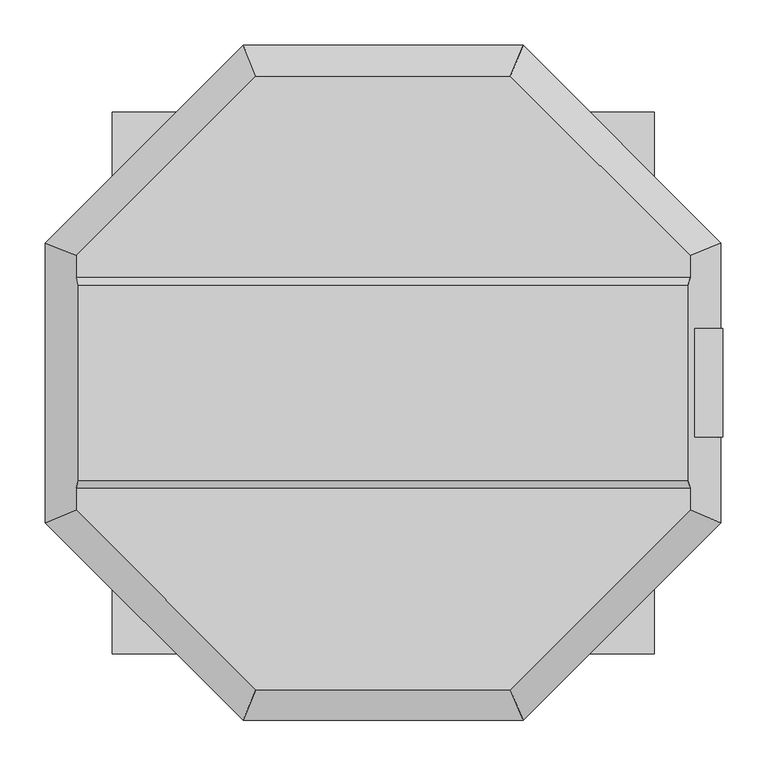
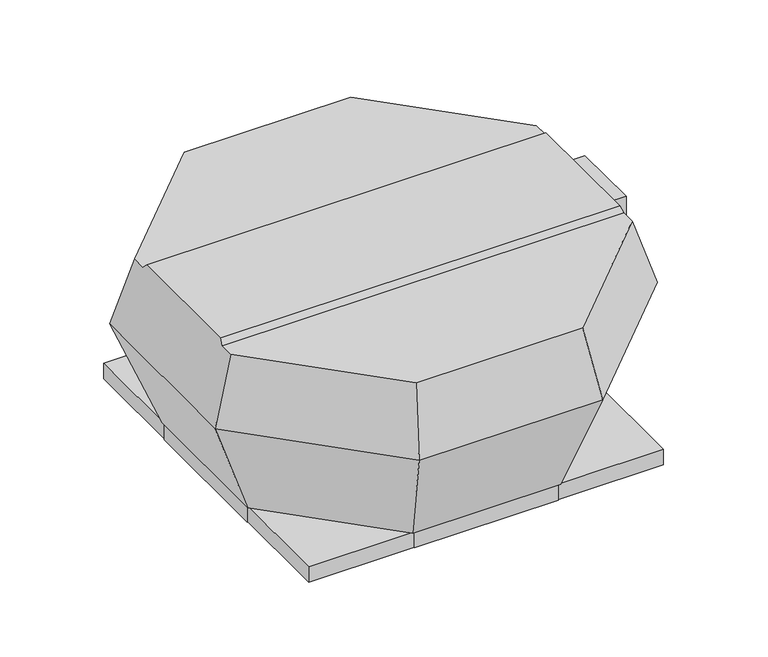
"""IFC4 building model written with IfcOpenShell, lengths in millimetres: unitary equipment geometry, VE-Wentylator-ParaForma-Harmann-VIVER_PS-Wywiewny : 4-355/2700S."""

from ifc_helpers import new_model, si_unit, point, frame, frame_2d, origin, place, context, project, spatial, polyline, circle_curve, ellipse_curve, trimmed, segment, composite_curve, outline, extrude, faceted_brep, source, transform, mapped, element, save
from ifc_brep_helpers import plane_surface, revolved_surface, advanced_brep


def unitary_equipment_25c7162d(model_context):
    return source(origin(), model_context, "Body", "SolidModel", [
        advanced_brep(
        [(336.2765997, -107.5, 306.5), (336.2765997, 107.5, 306.5), (-336.2765997, 107.5, 306.5), (-336.2765997, -107.5, 306.5), (338.8348735, 116.05, 298.0), (-338.8348735, 116.05, 298.0), (338.8348735, -116.05, 298.0), (-338.8348735, -116.05, 298.0), (140.35, -338.8348735, 298.0), (338.8348735, -140.35, 298.0), (-338.8348735, -140.35, 298.0), (-140.35, -338.8348735, 298.0), (338.8348735, 140.35, 298.0), (140.35, 338.8348735, 298.0), (-140.35, 338.8348735, 298.0), (-338.8348735, 140.35, 298.0), (154.4, -372.754574, 185.3), (372.754574, -154.4, 185.3), (372.754574, 154.4, 185.3), (370.0030463, -60.0, 194.4420965), (343.951421, -60.0, 281.0), (343.951421, 60.0, 281.0), (370.0030463, 60.0, 194.4420965), (366.2535489, 0.0, 206.9), (347.593199, 0.0, 268.9), (154.4, 372.754574, 185.3), (-154.4, 372.754574, 185.3), (-372.754574, 154.4, 185.3), (-372.754574, -154.4, 185.3), (-154.4, -372.754574, 185.3), (374.7, -60.0, 206.7), (374.7, -60.0, 281.0), (374.7, 60.0, 281.0), (374.7, 60.0, 206.7), (374.7, 0.0, 268.9), (374.7, 0.0, 206.9), (124.8, -301.2938526, 1.5), (-124.8, -301.2938526, 1.5), (-301.2938526, -124.8, 1.5), (-301.2938526, 124.8, 1.5), (-124.8, 301.2938526, 1.5), (124.8, 301.2938526, 1.5), (301.2938526, 124.8, 1.5), (301.2938526, -124.8, 1.5)],
        [
            (0, 1),
            (1, 2),
            (2, 3),
            (3, 0),
            (1, 4),
            (4, 5),
            (5, 2),
            (6, 0),
            (3, 7),
            (7, 6),
            (8, 9),
            (9, 6),
            (7, 10),
            (10, 11),
            (11, 8),
            (12, 13),
            (13, 14),
            (14, 15),
            (15, 5),
            (4, 12),
            (8, 16),
            (16, 17),
            (17, 9),
            (17, 18),
            (18, 12),
            (19, 20),
            (20, 21),
            (21, 22),
            (22, 19),
            (23, 24, ellipse_curve(frame((356.923374, 0.0, 237.9), z_axis=(0.9575693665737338, 0.0, 0.28820289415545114), x_axis=(-0.2882028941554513, 0.0, 0.9575693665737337)), 32.3736338, 31.0)),
            (24, 23, ellipse_curve(frame((356.923374, 0.0, 237.9), z_axis=(0.9575693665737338, 0.0, 0.28820289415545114), x_axis=(-0.2882028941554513, 0.0, 0.9575693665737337)), 32.3736338, 31.0)),
            (18, 25),
            (25, 13),
            (25, 26),
            (26, 14),
            (26, 27),
            (27, 15),
            (27, 28),
            (28, 10),
            (28, 29),
            (29, 11),
            (29, 16),
            (30, 31),
            (31, 20),
            (19, 30),
            (32, 33),
            (33, 22),
            (21, 32),
            (30, 33),
            (32, 31),
            (34, 35, circle_curve(frame((374.7, 0.0, 237.9), z_axis=(-1.0, 0.0, 0.0), x_axis=(0.0, 0.0, -1.0)), 31.0)),
            (35, 34, circle_curve(frame((374.7, 0.0, 237.9), z_axis=(-1.0, 0.0, 0.0), x_axis=(0.0, 0.0, -1.0)), 31.0)),
            (36, 37),
            (37, 38),
            (38, 39),
            (39, 40),
            (40, 41),
            (41, 42),
            (42, 43),
            (43, 36),
            (43, 17),
            (16, 36),
            (42, 18),
            (41, 25),
            (40, 26),
            (39, 27),
            (38, 28),
            (37, 29),
            (34, 24),
            (23, 35),
        ],
        [
            plane_surface(frame((0.0, 0.0, 306.5), z_axis=(0.0, 0.0, 1.0), x_axis=(0.0, 1.0, 0.0))),
            plane_surface(frame((0.0, 116.05, 298.0), z_axis=(0.0, 0.7050301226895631, 0.7091773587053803), x_axis=(-1.0, 0.0, 0.0))),
            plane_surface(frame((0.0, -116.05, 298.0), z_axis=(0.0, -0.7050301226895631, 0.7091773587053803), x_axis=(1.0, 0.0, 0.0))),
            plane_surface(frame((0.0, 0.0, 298.0), z_axis=(0.0, 0.0, 1.0000000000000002), x_axis=(0.7071067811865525, 0.7071067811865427, 0.0))),
            plane_surface(frame((263.577287, -263.577287, 185.3), z_axis=(0.6771037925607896, -0.6771037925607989, 0.28820289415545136), x_axis=(0.7071067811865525, 0.7071067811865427, 0.0))),
            plane_surface(frame((372.754574, 0.0, 185.3), z_axis=(0.9575693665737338, 0.0, 0.28820289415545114), x_axis=(0.0, 1.0, 0.0))),
            plane_surface(frame((263.577287, 263.577287, 185.3), z_axis=(0.6771037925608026, 0.6771037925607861, 0.2882028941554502), x_axis=(-0.7071067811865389, 0.7071067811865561, 0.0))),
            plane_surface(frame((0.0, 372.754574, 185.3), z_axis=(0.0, 0.9575693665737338, 0.28820289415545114), x_axis=(-1.0, 0.0, 0.0))),
            plane_surface(frame((-263.577287, 263.577287, 185.3), z_axis=(-0.6771037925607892, 0.6771037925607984, 0.28820289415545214), x_axis=(-0.7071067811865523, -0.7071067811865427, 0.0))),
            plane_surface(frame((-372.754574, 0.0, 185.3), z_axis=(-0.9575693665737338, 0.0, 0.28820289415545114), x_axis=(0.0, -1.0, 0.0))),
            plane_surface(frame((-263.577287, -263.577287, 185.3), z_axis=(-0.6771037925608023, -0.6771037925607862, 0.2882028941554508), x_axis=(0.7071067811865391, -0.7071067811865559, 0.0))),
            plane_surface(frame((0.0, -372.754574, 185.3), z_axis=(0.0, -0.9575693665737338, 0.28820289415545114), x_axis=(1.0, 0.0, 0.0))),
            plane_surface(frame((0.0, -60.0, 0.0), z_axis=(0.0, -1.0, 0.0), x_axis=(0.0, 0.0, 1.0))),
            plane_surface(frame((0.0, 60.0, 0.0), z_axis=(0.0, 1.0, 0.0), x_axis=(0.0, 0.0, 1.0))),
            plane_surface(frame((374.7, -60.0, 206.7), z_axis=(1.0, 0.0, 0.0), x_axis=(0.0, 1.0, 0.0))),
            plane_surface(frame((374.7, -60.0, 281.0), z_axis=(0.0, 0.0, 1.0), x_axis=(0.0, 1.0, 0.0))),
            plane_surface(frame((366.5, -60.0, 185.3), z_axis=(0.9337947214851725, 0.0, -0.35780919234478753), x_axis=(0.0, 1.0, 0.0))),
            plane_surface(frame((0.0, 0.0, 1.5), z_axis=(0.0, 0.0, -1.0000000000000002), x_axis=(0.7071067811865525, 0.7071067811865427, 0.0))),
            plane_surface(frame((213.0469263, -213.0469263, 1.5), z_axis=(0.659047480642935, -0.6590474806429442, -0.3623711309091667), x_axis=(0.7071067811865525, 0.7071067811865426, 0.0))),
            plane_surface(frame((301.2938526, 0.0, 1.5), z_axis=(0.932033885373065, 0.0, -0.3623711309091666), x_axis=(0.0, 1.0, 0.0))),
            plane_surface(frame((213.0469263, 213.0469263, 1.5), z_axis=(0.6590474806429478, 0.6590474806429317, -0.3623711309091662), x_axis=(-0.7071067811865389, 0.7071067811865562, 0.0))),
            plane_surface(frame((0.0, 301.2938526, 1.5), z_axis=(0.0, 0.932033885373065, -0.3623711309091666), x_axis=(-1.0, 0.0, 0.0))),
            plane_surface(frame((-213.0469263, 213.0469263, 1.5), z_axis=(-0.6590474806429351, 0.659047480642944, -0.36237113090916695), x_axis=(-0.7071067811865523, -0.7071067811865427, 0.0))),
            plane_surface(frame((-301.2938526, 0.0, 1.5), z_axis=(-0.932033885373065, 0.0, -0.3623711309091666), x_axis=(0.0, -1.0, 0.0))),
            plane_surface(frame((-213.0469263, -213.0469263, 1.5), z_axis=(-0.6590474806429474, -0.6590474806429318, -0.36237113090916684), x_axis=(0.7071067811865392, -0.7071067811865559, 0.0))),
            plane_surface(frame((0.0, -301.2938526, 1.5), z_axis=(0.0, -0.932033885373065, -0.3623711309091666), x_axis=(1.0, 0.0, 0.0))),
            revolved_surface(polyline([(347.593199, 0.0, 206.9), (374.7, 0.0, 206.9)]), (0.0, 0.0, 237.9), (-1.0, 0.0, 0.0)),
        ],
        [
            (0, [[1, 2, 3, 4]]),
            (1, [[5, 6, 7, -2]]),
            (2, [[8, -4, 9, 10]]),
            (3, [[11, 12, -10, 13, 14, 15]]),
            (3, [[16, 17, 18, 19, -6, 20]]),
            (4, [[-11, 21, 22, 23]]),
            (5, [[-23, 24, 25, -20, -5, -1, -8, -12], [26, 27, 28, 29]]),
            (5, [[30, 31]]),
            (6, [[-16, -25, 32, 33]]),
            (7, [[-17, -33, 34, 35]]),
            (8, [[-18, -35, 36, 37]]),
            (9, [[-37, 38, 39, -13, -9, -3, -7, -19]]),
            (10, [[-14, -39, 40, 41]]),
            (11, [[-15, -41, 42, -21]]),
            (12, [[43, 44, -26, 45]]),
            (13, [[46, 47, -28, 48]]),
            (14, [[-43, 49, -46, 50], [51, 52]]),
            (15, [[-50, -48, -27, -44]]),
            (16, [[-49, -45, -29, -47]]),
            (17, [[53, 54, 55, 56, 57, 58, 59, 60]]),
            (18, [[-60, 61, -22, 62]]),
            (19, [[-59, 63, -24, -61]]),
            (20, [[-58, 64, -32, -63]]),
            (21, [[-57, 65, -34, -64]]),
            (22, [[-56, 66, -36, -65]]),
            (23, [[-55, 67, -38, -66]]),
            (24, [[-54, 68, -40, -67]]),
            (25, [[-53, -62, -42, -68]]),
            (26, [[-51, 69, -30, 70]]),
            (26, [[-52, -70, -31, -69]]),
        ],
    ),
        faceted_brep([(297.55, 297.55, -26.6), (297.55, 297.55, 0.0), (-297.55, 297.55, 0.0), (-297.55, 297.55, -26.6), (299.05, 299.05, 1.5), (299.05, 299.05, -26.6), (-299.05, 299.05, -26.6), (-299.05, 299.05, 1.5), (-297.55, -297.55, 0.0), (-297.55, -297.55, -26.6), (-299.05, -299.05, -26.6), (-299.05, -299.05, 1.5), (297.55, -297.55, 0.0), (297.55, -297.55, -26.6), (299.05, -299.05, -26.6), (299.05, -299.05, 1.5)], [[[0, 1, 2, 3]], [[4, 5, 6, 7]], [[3, 2, 8, 9]], [[7, 6, 10, 11]], [[9, 8, 12, 13]], [[11, 10, 14, 15]], [[13, 12, 1, 0]], [[5, 14, 10, 6], [3, 9, 13, 0]], [[15, 14, 5, 4]], [[7, 11, 15, 4]], [[1, 12, 8, 2]]]),
        extrude(outline(composite_curve([segment(trimmed(circle_curve(frame_2d((0.0, 237.9)), 31.0), [point((0.0, 268.9))], [point((0.0, 206.9))], False, "CARTESIAN"), True, "CONTINUOUS"), segment(trimmed(circle_curve(frame_2d((0.0, 237.9)), 31.0), [point((0.0, 206.9))], [point((0.0, 268.9))], False, "CARTESIAN"), True, "CONTINUOUS")], self_intersect=False)), frame((364.7, 0.0, 0.0), z_axis=(1.0, 0.0, 0.0), x_axis=(0.0, 1.0, 0.0)), (0.0, 0.0, 1.0), 10.0),
        faceted_brep([(-299.1, -121.3, -26.6), (-300.1, -121.3, -26.6), (-300.1, 121.3, -26.6), (-299.1, 121.3, -26.6), (-299.1, -121.3, 1.5), (-299.1, 121.3, 1.5), (-300.1, 121.3, 1.5), (-300.1, -121.3, 1.5)], [[[0, 1, 2, 3]], [[4, 5, 6, 7]], [[1, 0, 4, 7]], [[2, 1, 7, 6]], [[3, 2, 6, 5]], [[0, 3, 5, 4]]]),
        faceted_brep([(300.1, -121.3, -26.6), (299.1, -121.3, -26.6), (299.1, 121.3, -26.6), (300.1, 121.3, -26.6), (300.1, 121.3, 1.5), (299.1, 121.3, 1.5), (299.1, -121.3, 1.5), (300.1, -121.3, 1.5), (300.1, -95.4, 1.5), (324.0, -78.2, 1.5), (324.0, 78.2, 1.5), (300.1, 95.4, 1.5), (300.1, 95.4, 0.0), (300.1, -95.4, 0.0), (324.0, 78.2, 0.0), (320.9, 78.2, 0.0), (320.9, -78.2, 0.0), (324.0, -78.2, 0.0), (324.0, -78.2, -21.0), (324.0, 78.2, -21.0), (320.9, -78.2, -21.0), (320.9, 78.2, -21.0)], [[[0, 1, 2, 3]], [[4, 5, 6, 7, 8, 9, 10, 11]], [[1, 0, 7, 6]], [[2, 1, 6, 5]], [[3, 2, 5, 4]], [[0, 3, 4, 11, 12, 13, 8, 7]], [[12, 14, 15, 16, 17, 13]], [[14, 12, 11, 10]], [[10, 9, 17, 18, 19, 14]], [[13, 17, 9, 8]], [[20, 16, 15, 21]], [[16, 20, 18, 17]], [[21, 15, 14, 19]], [[20, 21, 19, 18]]]),
        faceted_brep([(121.3, 299.1, -26.6), (-121.3, 299.1, -26.6), (-121.3, 300.1, -26.6), (121.3, 300.1, -26.6), (121.3, 299.1, 1.5), (121.3, 300.1, 1.5), (-121.3, 300.1, 1.5), (-121.3, 299.1, 1.5)], [[[0, 1, 2, 3]], [[4, 5, 6, 7]], [[1, 0, 4, 7]], [[2, 1, 7, 6]], [[3, 2, 6, 5]], [[0, 3, 5, 4]]]),
        faceted_brep([(121.3, -300.1, -26.6), (-121.3, -300.1, -26.6), (-121.3, -299.1, -26.6), (121.3, -299.1, -26.6), (121.3, -300.1, 1.5), (121.3, -299.1, 1.5), (-121.3, -299.1, 1.5), (-121.3, -300.1, 1.5)], [[[0, 1, 2, 3]], [[4, 5, 6, 7]], [[1, 0, 4, 7]], [[2, 1, 7, 6]], [[3, 2, 6, 5]], [[0, 3, 5, 4]]]),
    ])


if __name__ == "__main__":
    model = new_model("IFC4")
    model_context = context("Model", 3, world=origin())
    ifc_project = project(units=[si_unit("LENGTHUNIT", "METRE", prefix="MILLI")], contexts=[model_context])
    site = spatial("IfcSite", under=ifc_project)
    building = spatial("IfcBuilding", under=site)
    placement = place(None, origin())
    unitary_equipment_shape = unitary_equipment_25c7162d(model_context)
    element("IfcUnitaryEquipment", 1, ObjectType="VE-Wentylator-ParaForma-Harmann-VIVER_PS-Wywiewny : 4-355/2700S", at=placement, inside=building, context=model_context, shape_type="MappedRepresentation", body=[
        mapped(unitary_equipment_shape, transform((0.0, 0.0, 0.0), x_axis=(1.0, 0.0, 0.0), y_axis=(0.0, 1.0, 0.0), z_axis=(0.0, 0.0, 1.0))),
    ])
    save(model, "model.ifc")
